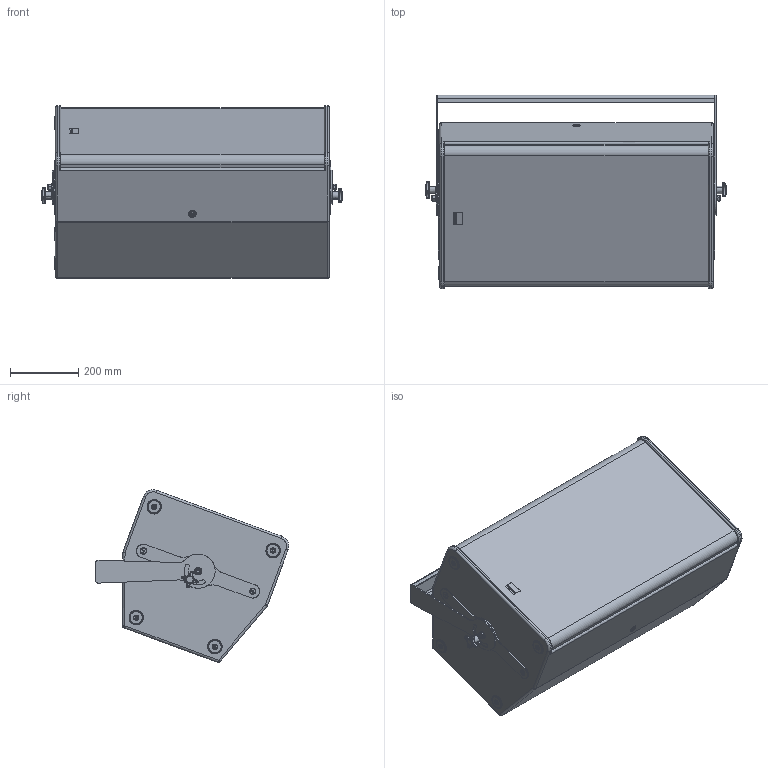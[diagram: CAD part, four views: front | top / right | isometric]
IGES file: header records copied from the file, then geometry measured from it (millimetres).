
Start section: SolidWorks IGES file using analytic representation for surfaces
Global section: file name: C:\Documents and Settings\Administrator\Desktop\SEEBURG_F8_Bracket_hor.IGS; native system: SolidWorks 2009; preprocessor: SolidWorks 2009; author: Administrator; date: 140819.145819; units: millimetre
Bounding box: 877.5 x 564.95 x 504.74 mm (x, y, z)
Surface area: 3514834.3 mm2 (no closed solid volume)
Topology: 0 solids, 0 shells, 1637 faces, 16874 edges, 16854 vertices
Faces by surface type: revolution 1125, bspline 512
